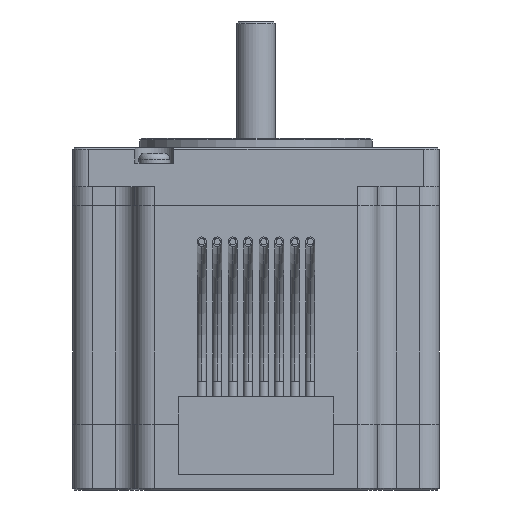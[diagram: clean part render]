
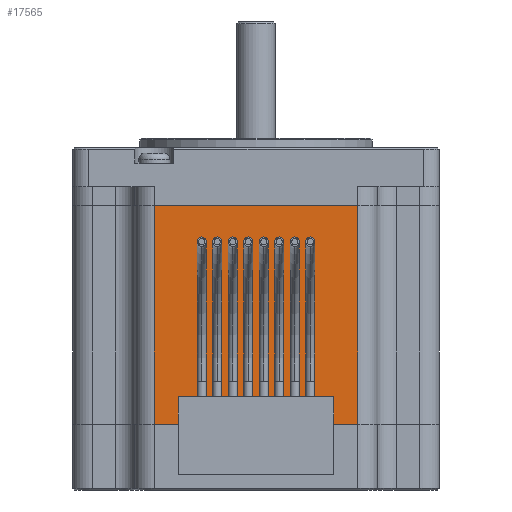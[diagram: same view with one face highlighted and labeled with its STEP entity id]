
A CAD part, front view. The second image highlights one B-rep face of the part: STEP entity #17565.
In plain terms, the highlighted planar face has unit normal (0, -1, 0).
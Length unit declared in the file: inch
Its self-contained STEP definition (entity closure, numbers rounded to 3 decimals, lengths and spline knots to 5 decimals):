
#3520 = CARTESIAN_POINT ( 'NONE',  ( -0.655, -1.179, -0.375 ) ) ;
#3521 = CARTESIAN_POINT ( 'NONE',  ( 0.655, -1.179, -0.375 ) ) ;
#3522 = CARTESIAN_POINT ( 'NONE',  ( 0.655, -1.179, -0.375 ) ) ;
#3523 = LINE ( 'NONE', #3522, #3577 ) ;
#3576 = DIRECTION ( 'NONE',  ( -1., 0., 0. ) ) ;
#3577 = VECTOR ( 'NONE', #3576, 39.37008 ) ;
#6992 = CARTESIAN_POINT ( 'NONE',  ( 0.655, -1.179, -1.78 ) ) ;
#7001 = CARTESIAN_POINT ( 'NONE',  ( -0.655, -1.179, -1.78 ) ) ;
#7029 = PLANE ( 'NONE',  #7043 ) ;
#7043 = AXIS2_PLACEMENT_3D ( 'NONE', #7055, #7054, #7053 ) ;
#7044 = FACE_OUTER_BOUND ( 'NONE', #17574, .T. ) ;
#7053 = DIRECTION ( 'NONE',  ( -1., 0., 0. ) ) ;
#7054 = DIRECTION ( 'NONE',  ( 0., 1., 0. ) ) ;
#7055 = CARTESIAN_POINT ( 'NONE',  ( 0.655, -1.179, -1.78 ) ) ;
#7091 = LINE ( 'NONE', #7108, #7092 ) ;
#7092 = VECTOR ( 'NONE', #7143, 39.37008 ) ;
#7094 = DIRECTION ( 'NONE',  ( 0., 0., 1. ) ) ;
#7095 = VECTOR ( 'NONE', #7094, 39.37008 ) ;
#7096 = CARTESIAN_POINT ( 'NONE',  ( -0.655, -1.179, -1.78 ) ) ;
#7097 = LINE ( 'NONE', #7096, #7095 ) ;
#7108 = CARTESIAN_POINT ( 'NONE',  ( 0.655, -1.179, -1.78 ) ) ;
#7143 = DIRECTION ( 'NONE',  ( -1., 0., 0. ) ) ;
#7197 = DIRECTION ( 'NONE',  ( 0., 0., 1. ) ) ;
#7198 = VECTOR ( 'NONE', #7197, 39.37008 ) ;
#7200 = CARTESIAN_POINT ( 'NONE',  ( 0.655, -1.179, -1.78 ) ) ;
#7201 = LINE ( 'NONE', #7200, #7198 ) ;
#9110 = VERTEX_POINT ( 'NONE', #3521 ) ;
#9112 = VERTEX_POINT ( 'NONE', #3520 ) ;
#9117 = EDGE_CURVE ( 'NONE', #9110, #9112, #3523, .T. ) ;
#17547 = ORIENTED_EDGE ( 'NONE', *, *, #17576, .F. ) ;
#17558 = ORIENTED_EDGE ( 'NONE', *, *, #9117, .T. ) ;
#17564 = VERTEX_POINT ( 'NONE', #7001 ) ;
#17565 = ADVANCED_FACE ( 'NONE', ( #7044 ), #7029, .F. ) ;
#17566 = VERTEX_POINT ( 'NONE', #6992 ) ;
#17568 = ORIENTED_EDGE ( 'NONE', *, *, #17575, .F. ) ;
#17574 = EDGE_LOOP ( 'NONE', ( #17558, #17568, #17547, #17609 ) ) ;
#17575 = EDGE_CURVE ( 'NONE', #17564, #9112, #7097, .T. ) ;
#17576 = EDGE_CURVE ( 'NONE', #17566, #17564, #7091, .T. ) ;
#17584 = EDGE_CURVE ( 'NONE', #17566, #9110, #7201, .T. ) ;
#17609 = ORIENTED_EDGE ( 'NONE', *, *, #17584, .T. ) ;
